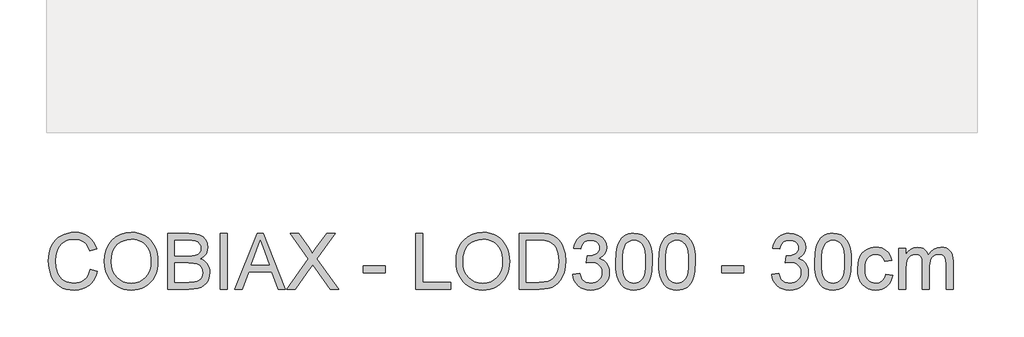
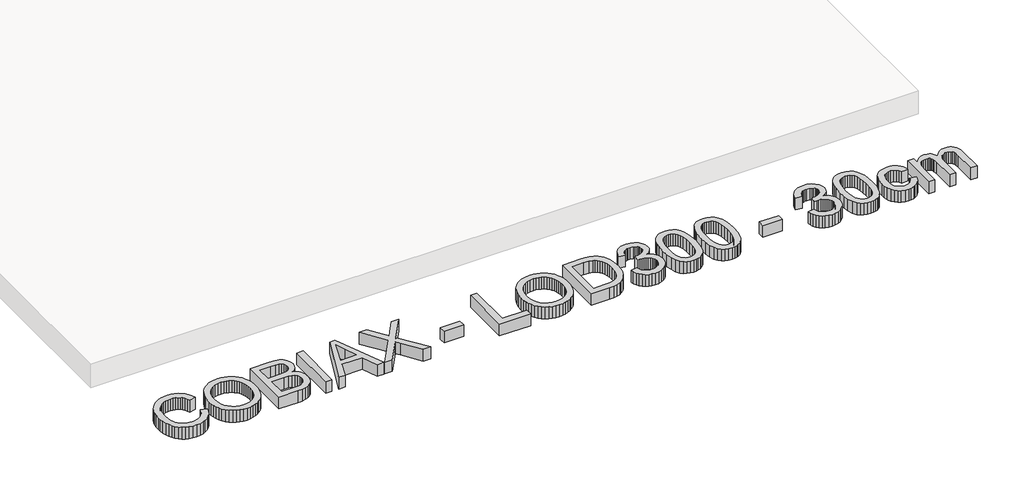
# One storey, part 15 of 18: 1 proxy.
"""IFC4 building model written with IfcOpenShell, lengths in millimetres."""

from ifc_helpers import new_model, si_unit, origin, origin_with_axes, place, context, project, spatial, polyline, outline, extrude, element, save

model = new_model("IFC4")

# Units and contexts
model_context = context("Model", 3, world=origin())
ifc_project = project(units=[si_unit("LENGTHUNIT", "METRE", prefix="MILLI")], contexts=[model_context])

# Site, building, storey
site = spatial("IfcSite", under=ifc_project)
building = spatial("IfcBuilding", under=site)
storey = spatial("IfcBuildingStorey", under=building, Name="COBIAX Slabs", Elevation=0.0)

# Proxy
placement = place(None, origin())
element("IfcBuildingElementProxy", 1, Name="600mm Arial", ObjectType="600mm Arial", at=placement, inside=storey, context=model_context, shape_type="SweptSolid", body=[
    extrude(outline(polyline([(39098.2153953, -6620.9127725), (39173.5576279, -6640.3369419), (39158.64921, -6687.1913125), (39138.7927794, -6728.13198), (39113.9883358, -6763.1589445), (39084.2358795, -6792.2722059), (39050.2067949, -6815.1590645), (39012.5724668, -6831.5068207), (38971.3328952, -6841.3154744), (38926.4880799, -6844.5850256), (38880.5442173, -6842.1110192), (38839.097712, -6834.6889999), (38802.1485641, -6822.3189678), (38769.6967736, -6805.0009229), (38741.2962836, -6782.9923826), (38716.5010371, -6756.5508642), (38695.3110342, -6725.6763677), (38677.7262748, -6690.3688932), (38663.9169044, -6652.155151), (38654.0530684, -6612.5618512), (38648.1347668, -6571.588994), (38646.1619996, -6529.2365793), (38648.3922842, -6483.7939559), (38655.083138, -6441.3495707), (38666.234561, -6401.9034238), (38681.8465531, -6365.4555151), (38701.5696266, -6332.6082514), (38725.0542935, -6303.9640396), (38752.3005538, -6279.5228795), (38783.3084074, -6259.2847713), (38817.0247923, -6243.4152617), (38852.3966461, -6232.0798977), (38889.4239689, -6225.2786793), (38928.1067607, -6223.0116065), (38971.1995379, -6225.9454655), (39010.7146627, -6234.7470422), (39046.6521351, -6249.4163368), (39079.0119551, -6269.9533491), (39107.2606938, -6295.8154534), (39130.8649224, -6326.4600236), (39149.8246407, -6361.8870597), (39164.1398488, -6402.0965618), (39088.7976162, -6420.0492032), (39076.9334219, -6390.420907), (39062.6779946, -6365.1060272), (39046.0313343, -6344.1045638), (39026.993441, -6327.4165168), (39005.4539502, -6314.7015953), (38981.3024972, -6305.6195086), (38954.5390821, -6300.1702565), (38925.1637048, -6298.3538392), (38891.3645465, -6300.3679931), (38860.4532618, -6306.4104549), (38832.4298508, -6316.4812245), (38807.2943135, -6330.5803019), (38785.3639481, -6348.0730908), (38766.9560527, -6368.3249946), (38752.0706275, -6391.3360134), (38740.7076724, -6417.1061472), (38726.3050923, -6472.2516583), (38721.5042322, -6529.0894265), (38727.1880091, -6598.6927), (38734.2927301, -6629.9626696), (38744.2393395, -6658.8781944), (38757.1887858, -6684.8644589), (38773.3020171, -6707.3466473), (38792.5790337, -6726.3247597), (38815.0198354, -6741.7987961), (38839.5345719, -6753.8055448), (38865.0333926, -6762.3817938), (38891.5162978, -6767.5275432), (38918.9832872, -6769.242793), (38951.7385804, -6766.9067423), (38981.8727143, -6759.8985903), (39009.385689, -6748.218337), (39034.2775045, -6731.8659823), (39055.9595496, -6710.9151027), (39073.8432131, -6685.4392745), (39087.928495, -6655.4384978), (39098.2153953, -6620.9127725)])), origin_with_axes(), (0.0, 0.0, 1.0), 150.0),
    extrude(outline(polyline([(39248.8998605, -6541.7445672), (39253.9214497, -6471.0468447), (39268.9862175, -6408.4609203), (39294.0941636, -6353.9867939), (39310.4143286, -6329.7916549), (39329.2452883, -6307.6244654), (39372.3334669, -6270.6063397), (39421.2525753, -6244.1648213), (39476.0026132, -6228.2999102), (39536.5835807, -6223.0116065), (39577.1333737, -6225.49481), (39615.6414215, -6232.9444204), (39652.1077243, -6245.3604378), (39686.532282, -6262.742862), (39717.9494044, -6284.5674614), (39745.3934012, -6310.310004), (39768.8642725, -6339.9704899), (39788.3620182, -6373.548919), (39803.6843033, -6410.2819362), (39814.6287927, -6449.4061864), (39821.1954863, -6490.9216695), (39823.3843842, -6534.8283857), (39821.0805232, -6579.3145159), (39814.1689402, -6621.3910191), (39802.6496352, -6661.0578953), (39786.5226083, -6698.3151443), (39766.1695369, -6732.178682), (39741.9720986, -6761.6644239), (39713.9302936, -6786.7723701), (39682.0441216, -6807.5025205), (39647.5689802, -6823.7261165), (39611.7602665, -6835.3143993), (39574.6179805, -6842.267369), (39536.1421223, -6844.5850256), (39494.8841566, -6842.0236472), (39455.870271, -6834.339512), (39419.1004656, -6821.5326201), (39384.5747403, -6803.6029713), (39353.1944061, -6781.2449431), (39325.8607739, -6755.1529126), (39302.5738436, -6725.3268798), (39283.3336153, -6691.7668448), (39268.2688476, -6655.8201753), (39257.5082992, -6618.8342393), (39251.0519702, -6580.8090365), (39248.8998605, -6541.7445672)]), holes=[polyline([(39324.2420931, -6542.4803312), (39328.0082851, -6592.4295091), (39339.3068608, -6636.7684865), (39358.1378205, -6675.4972636), (39384.5011639, -6708.6158402), (39416.5482842, -6735.140132), (39452.4305743, -6754.0860548), (39492.1480343, -6765.4536084), (39535.700664, -6769.242793), (39579.9982547, -6765.4168202), (39620.1847641, -6753.938902), (39656.2601923, -6734.8090382), (39688.2245392, -6708.027229), (39714.3947446, -6674.2096766), (39733.0877485, -6633.9725834), (39744.3035508, -6587.3159493), (39748.0421516, -6534.2397745), (39746.4418649, -6499.7600345), (39741.6410049, -6467.5427687), (39733.6395715, -6437.5879773), (39722.4375647, -6409.8956601), (39708.1591448, -6384.8291007), (39690.9284718, -6362.7515824), (39670.7455459, -6343.6631054), (39647.6103669, -6327.5636696), (39622.2403048, -6314.7843688), (39595.3527295, -6305.6562968), (39566.9476409, -6300.1794536), (39537.0250391, -6298.3538392), (39494.9853241, -6301.8717107), (39455.9806356, -6312.4253255), (39420.0109735, -6330.0146834), (39387.0763379, -6354.6397844), (39359.5863558, -6387.4870481), (39339.9506543, -6429.7428937), (39328.1692334, -6481.4073214), (39324.2420931, -6542.4803312)])]), origin_with_axes(), (0.0, 0.0, 1.0), 150.0),
    extrude(outline(polyline([(39926.979954, -6835.1672465), (39926.979954, -6232.4293856), (40156.9797774, -6232.4293856), (40220.2370865, -6236.8623637), (40269.6252443, -6250.1612978), (40289.7024042, -6260.2182718), (40307.4803016, -6272.6572818), (40322.9589366, -6287.4783277), (40336.1383091, -6304.6814095), (40354.1829209, -6342.3525258), (40360.1977915, -6381.7894757), (40355.1394141, -6418.0810345), (40339.9642818, -6452.2020895), (40314.56203, -6482.0557135), (40278.8222942, -6505.5449788), (40301.562, -6515.2386694), (40321.5149998, -6527.8386278), (40338.6812934, -6543.3448538), (40353.0608808, -6561.7573477), (40364.423836, -6582.5150893), (40372.5402325, -6605.0570585), (40377.4100704, -6629.3832555), (40379.0333497, -6655.4936801), (40374.6003717, -6697.524198), (40361.3014375, -6736.5012954), (40341.4542039, -6769.6474632), (40317.3763273, -6794.1851923), (40287.8905854, -6811.9538926), (40251.8197558, -6824.7929743), (40207.986616, -6832.5736785), (40155.2139438, -6835.1672465), (39926.979954, -6835.1672465)]), holes=[polyline([(40002.3221866, -6477.2916416), (40139.9100528, -6477.2916416), (40188.0290178, -6475.6729608), (40220.2554806, -6470.8169185), (40248.3800591, -6459.6516999), (40268.5951747, -6442.9314633), (40280.7904629, -6420.9137259), (40284.8555589, -6393.8560051), (40281.0663744, -6367.5892307), (40269.6988207, -6344.7069706), (40251.2679328, -6326.8462997), (40226.2887453, -6315.6442929), (40187.9554414, -6309.7397869), (40129.4622042, -6307.7716182), (40002.3221866, -6307.7716182), (40002.3221866, -6477.2916416)]), polyline([(40002.3221866, -6759.8250139), (40156.8326246, -6759.8250139), (40212.7506879, -6756.8819579), (40238.7047626, -6750.3520525), (40260.0603125, -6740.474421), (40277.4243426, -6726.3293582), (40291.4038584, -6706.9971594), (40300.6193024, -6683.3423471), (40303.6911171, -6656.2294441), (40300.0858735, -6624.7387453), (40289.2701429, -6597.6626304), (40270.3794024, -6576.4910216), (40242.5491295, -6562.7138409), (40203.1305737, -6555.1538659), (40149.4749847, -6552.6338742), (40002.3221866, -6552.6338742), (40002.3221866, -6759.8250139)])]), origin_with_axes(), (0.0, 0.0, 1.0), 150.0),
    extrude(outline(polyline([(40492.0466986, -6835.1672465), (40492.0466986, -6232.4293856), (40567.3889312, -6232.4293856), (40567.3889312, -6835.1672465), (40492.0466986, -6835.1672465)])), origin_with_axes(), (0.0, 0.0, 1.0), 150.0),
    extrude(outline(polyline([(40647.8815118, -6835.1672465), (40888.4763366, -6232.4293856), (40952.6349566, -6232.4293856), (41193.2297814, -6835.1672465), (41113.6201177, -6835.1672465), (41044.6054554, -6646.811665), (40796.358685, -6646.811665), (40727.4911755, -6835.1672465), (40647.8815118, -6835.1672465)]), holes=[polyline([(40824.0234111, -6571.4694324), (41017.0878821, -6571.4694324), (40962.7884996, -6423.2865647), (40920.5556466, -6307.7716182), (40883.0316831, -6410.3371185), (40824.0234111, -6571.4694324)])]), origin_with_axes(), (0.0, 0.0, 1.0), 150.0),
    extrude(outline(polyline([(41207.7979084, -6835.1672465), (41440.1521766, -6506.7222012), (41245.4690247, -6232.4293856), (41335.8208428, -6232.4293856), (41445.4496773, -6386.7926708), (41471.6060872, -6425.8985269), (41482.3850296, -6446.9781652), (41525.6479523, -6385.7626012), (41634.0995644, -6232.4293856), (41725.7757576, -6232.4293856), (41531.0926058, -6507.605118), (41763.4468739, -6835.1672465), (41673.0950559, -6835.1672465), (41518.2903124, -6616.7924942), (41486.0638496, -6571.4694324), (41450.6000252, -6621.2070781), (41299.4741016, -6835.1672465), (41207.7979084, -6835.1672465)])), origin_with_axes(), (0.0, 0.0, 1.0), 150.0),
    extrude(outline(polyline([(42027.1446881, -6656.2294441), (42027.1446881, -6580.8872115), (42262.589165, -6580.8872115), (42262.589165, -6656.2294441), (42027.1446881, -6656.2294441)])), origin_with_axes(), (0.0, 0.0, 1.0), 150.0),
    extrude(outline(polyline([(42592.2114327, -6835.1672465), (42592.2114327, -6232.4293856), (42667.5536653, -6232.4293856), (42667.5536653, -6759.8250139), (42968.9225957, -6759.8250139), (42968.9225957, -6835.1672465), (42592.2114327, -6835.1672465)])), origin_with_axes(), (0.0, 0.0, 1.0), 150.0),
    extrude(outline(polyline([(43025.4292702, -6541.7445672), (43030.4508594, -6471.0468447), (43045.5156271, -6408.4609203), (43070.6235733, -6353.9867939), (43086.9437383, -6329.7916549), (43105.7746979, -6307.6244654), (43148.8628766, -6270.6063397), (43197.7819849, -6244.1648213), (43252.5320229, -6228.2999102), (43313.1129904, -6223.0116065), (43353.6627833, -6225.49481), (43392.1708312, -6232.9444204), (43428.637134, -6245.3604378), (43463.0616917, -6262.742862), (43494.4788141, -6284.5674614), (43521.9228109, -6310.310004), (43545.3936822, -6339.9704899), (43564.8914279, -6373.548919), (43580.213713, -6410.2819362), (43591.1582024, -6449.4061864), (43597.724896, -6490.9216695), (43599.9137939, -6534.8283857), (43597.6099329, -6579.3145159), (43590.6983499, -6621.3910191), (43579.1790449, -6661.0578953), (43563.052018, -6698.3151443), (43542.6989466, -6732.178682), (43518.5015083, -6761.6644239), (43490.4597033, -6786.7723701), (43458.5735313, -6807.5025205), (43424.0983898, -6823.7261165), (43388.2896761, -6835.3143993), (43351.1473902, -6842.267369), (43312.671532, -6844.5850256), (43271.4135663, -6842.0236472), (43232.3996807, -6834.339512), (43195.6298753, -6821.5326201), (43161.10415, -6803.6029713), (43129.7238158, -6781.2449431), (43102.3901836, -6755.1529126), (43079.1032533, -6725.3268798), (43059.8630249, -6691.7668448), (43044.7982572, -6655.8201753), (43034.0377089, -6618.8342393), (43027.5813799, -6580.8090365), (43025.4292702, -6541.7445672)]), holes=[polyline([(43100.7715028, -6542.4803312), (43104.5376947, -6592.4295091), (43115.8362705, -6636.7684865), (43134.6672301, -6675.4972636), (43161.0305736, -6708.6158402), (43193.0776939, -6735.140132), (43228.959984, -6754.0860548), (43268.6774439, -6765.4536084), (43312.2300736, -6769.242793), (43356.5276644, -6765.4168202), (43396.7141738, -6753.938902), (43432.789602, -6734.8090382), (43464.7539488, -6708.027229), (43490.9241543, -6674.2096766), (43509.6171582, -6633.9725834), (43520.8329605, -6587.3159493), (43524.5715613, -6534.2397745), (43522.9712746, -6499.7600345), (43518.1704145, -6467.5427687), (43510.1689811, -6437.5879773), (43498.9669744, -6409.8956601), (43484.6885545, -6384.8291007), (43467.4578815, -6362.7515824), (43447.2749555, -6343.6631054), (43424.1397766, -6327.5636696), (43398.7697145, -6314.7843688), (43371.8821392, -6305.6562968), (43343.4770506, -6300.1794536), (43313.5544488, -6298.3538392), (43271.5147338, -6301.8717107), (43232.5100453, -6312.4253255), (43196.5403832, -6330.0146834), (43163.6057476, -6354.6397844), (43136.1157655, -6387.4870481), (43116.480064, -6429.7428937), (43104.6986431, -6481.4073214), (43100.7715028, -6542.4803312)])]), origin_with_axes(), (0.0, 0.0, 1.0), 150.0),
    extrude(outline(polyline([(43703.5093637, -6835.1672465), (43703.5093637, -6232.4293856), (43911.4362674, -6232.4293856), (43973.5715364, -6234.5998894), (44019.0049628, -6241.1114007), (44067.0503513, -6257.8500315), (44107.5909472, -6284.2271705), (44129.9305814, -6305.7850555), (44149.2719773, -6330.1388435), (44165.6151349, -6357.2885348), (44178.9600543, -6387.2341292), (44189.3251295, -6419.6997153), (44196.7287546, -6454.4093815), (44202.6516548, -6530.5609545), (44198.641741, -6595.2530034), (44186.6119998, -6652.1827421), (44168.2914764, -6700.651195), (44145.4092163, -6739.9593862), (44119.0688655, -6770.9902325), (44090.3740698, -6794.6266507), (44057.4302372, -6812.1562277), (44018.3427752, -6824.8665507), (43973.0381075, -6832.5920726), (43921.4426577, -6835.1672465), (43703.5093637, -6835.1672465)]), holes=[polyline([(43778.8515963, -6759.8250139), (43912.1720314, -6759.8250139), (43967.3175425, -6757.1026871), (44009.1457253, -6748.9357069), (44040.7100005, -6735.8023196), (44065.0637886, -6718.1807721), (44091.2385925, -6685.5680332), (44110.9018852, -6643.3535742), (44123.2075379, -6591.3534542), (44127.3094222, -6529.3837321), (44125.2998668, -6485.6425629), (44119.2712006, -6447.2724708), (44109.2234236, -6414.2734558), (44095.1565358, -6386.645518), (44078.2109714, -6363.7632579), (44059.5271645, -6345.0012761), (44039.1051153, -6330.3595727), (44016.9448236, -6319.8381477), (43973.6083246, -6310.7882506), (43910.1118922, -6307.7716182), (43778.8515963, -6307.7716182), (43778.8515963, -6759.8250139)])]), origin_with_axes(), (0.0, 0.0, 1.0), 150.0),
    extrude(outline(polyline([(44277.9938874, -6675.0650022), (44353.33612, -6665.6472231), (44370.2035095, -6712.9936359), (44381.5756616, -6730.900292), (44394.9067854, -6744.9625813), (44410.5003835, -6755.5851739), (44428.6599585, -6763.1727401), (44449.3855104, -6767.7252798), (44472.6770392, -6769.242793), (44499.9738833, -6767.1550627), (44524.3276713, -6760.8918717), (44545.7384035, -6750.4532201), (44564.2060796, -6735.8391078), (44579.0777093, -6718.1439839), (44589.7003019, -6698.4622971), (44596.0738575, -6676.7940476), (44598.198376, -6653.1392353), (44596.0922516, -6630.6110616), (44589.7738783, -6610.115436), (44579.2432562, -6591.6523583), (44564.5003852, -6575.2218287), (44546.5109557, -6561.7343551), (44526.2406577, -6552.1004453), (44503.6894914, -6546.3200995), (44478.8574567, -6544.3933175), (44455.0554917, -6546.4534567), (44426.0296022, -6552.6338742), (44434.4173117, -6477.2916416), (44446.4838412, -6478.1745584), (44491.622962, -6472.7666931), (44531.9796168, -6456.5430971), (44548.5894889, -6444.2742325), (44560.4536833, -6429.0991002), (44567.5721999, -6411.0177002), (44569.9450388, -6390.0300324), (44568.2251904, -6372.9924975), (44563.0656454, -6357.4908699), (44554.4664038, -6343.5251496), (44542.4274655, -6331.0953367), (44527.6753975, -6320.8912099), (44510.9367667, -6313.6025479), (44471.4998168, -6307.7716182), (44450.8432428, -6309.2431462), (44431.9892906, -6313.6577302), (44414.9379601, -6321.0153701), (44399.6892514, -6331.3160659), (44386.6202435, -6344.5598178), (44376.1080155, -6360.7466255), (44368.1525673, -6379.8764893), (44362.7538991, -6401.949409), (44287.4116665, -6392.5316299), (44296.3420019, -6356.5619678), (44309.5949508, -6324.878131), (44327.1705131, -6297.4801194), (44349.0686888, -6274.3679331), (44374.5996993, -6256.0198186), (44403.0737657, -6242.9140225), (44434.4908881, -6235.0505448), (44468.8510665, -6232.4293856), (44516.2158734, -6237.5981277), (44559.7179193, -6253.1043538), (44596.3957542, -6277.5685064), (44623.2879281, -6309.6110282), (44639.7874355, -6346.5279864), (44645.2872714, -6385.6154484), (44640.063347, -6422.0357659), (44624.391574, -6455.0715691), (44598.4926816, -6483.2145417), (44562.5873988, -6504.9563677), (44587.695345, -6512.8106482), (44609.7498706, -6524.012655), (44628.7509757, -6538.5623879), (44644.6986602, -6556.459847), (44657.3170126, -6577.2635738), (44666.3301215, -6600.53211), (44671.7379868, -6626.2654556), (44673.5406086, -6654.4636105), (44669.935365, -6692.6865498), (44659.1196344, -6727.8928567), (44641.0934166, -6760.0825313), (44615.8567117, -6789.2555735), (44585.110974, -6813.4622088), (44550.5576576, -6830.7526626), (44512.1967626, -6841.1269348), (44470.0282889, -6844.5850256), (44431.9157142, -6841.6327726), (44397.1876538, -6832.7760136), (44365.8441078, -6818.0147485), (44337.8850762, -6797.3489774), (44314.4417961, -6771.9927109), (44296.6455045, -6743.1599595), (44284.4962016, -6710.8507233), (44277.9938874, -6675.0650022)])), origin_with_axes(), (0.0, 0.0, 1.0), 150.0),
    extrude(outline(polyline([(44739.4650621, -6538.6543584), (44745.0016862, -6442.1773052), (44751.9224662, -6401.2642288), (44761.6115582, -6365.2347859), (44774.0275756, -6333.7946709), (44789.1291315, -6306.6495782), (44806.9162259, -6283.7995077), (44827.388859, -6265.2444596), (44850.6160084, -6250.8878647), (44876.6666522, -6240.6331541), (44905.5407903, -6234.4803277), (44937.2384227, -6232.4293856), (44983.6651305, -6237.285428), (45025.235796, -6251.853555), (45060.0006445, -6275.5635496), (45086.0099016, -6307.8451946), (45105.6548001, -6348.4225787), (45121.3265731, -6397.0197903), (45131.5904808, -6458.731995), (45135.0117833, -6538.6543584), (45129.5303416, -6634.5795887), (45122.6785395, -6675.3547093), (45113.0860164, -6711.3381669), (45100.7665681, -6742.7920775), (45085.7339901, -6769.978557), (45067.9882823, -6792.8976053), (45047.5294449, -6811.5492224), (45024.2747043, -6826.0023863), (44998.141287, -6836.3260748), (44969.1291932, -6842.5202879), (44937.2384227, -6844.5850256), (44895.7413337, -6840.9981761), (44858.9531342, -6830.2376278), (44826.8738242, -6812.3033805), (44799.5034037, -6787.1954344), (44773.2366293, -6741.8079932), (44754.4746475, -6685.2553335), (44743.2174585, -6617.5374552), (44739.4650621, -6538.6543584)]), holes=[polyline([(44814.8072947, -6538.5072056), (44817.0145867, -6604.0039963), (44823.6364626, -6657.0203904), (44834.6729225, -6697.5563877), (44850.1239663, -6725.6119884), (44868.8123716, -6744.7004654), (44889.5609162, -6758.3350918), (44912.3695999, -6766.5158677), (44937.2384227, -6769.242793), (44962.1072456, -6766.5066706), (44984.9159293, -6758.2983036), (45005.6644738, -6744.6176919), (45024.3528792, -6725.4648356), (45039.803923, -6697.3632497), (45050.8403828, -6656.8364494), (45057.4622588, -6603.8844347), (45059.6695507, -6538.5072056), (45057.5358352, -6474.7440588), (45051.1346884, -6422.6611653), (45040.4661106, -6382.2585252), (45025.5301016, -6353.5361384), (45007.1543959, -6333.5141609), (44986.1667281, -6319.2127483), (44962.5670981, -6310.6319008), (44936.3555059, -6307.7716182), (44911.6154418, -6310.2916099), (44889.1930342, -6317.8515849), (44869.0882831, -6330.4515432), (44851.3011887, -6348.0914849), (44835.3351101, -6379.3614545), (44823.9307682, -6421.5207311), (44817.0881631, -6474.5693149), (44814.8072947, -6538.5072056)])]), origin_with_axes(), (0.0, 0.0, 1.0), 150.0),
    extrude(outline(polyline([(45200.9362369, -6538.6543584), (45206.4728609, -6442.1773052), (45213.3936409, -6401.2642288), (45223.082733, -6365.2347859), (45235.4987503, -6333.7946709), (45250.6003062, -6306.6495782), (45268.3874007, -6283.7995077), (45288.8600337, -6265.2444596), (45312.0871832, -6250.8878647), (45338.137827, -6240.6331541), (45367.0119651, -6234.4803277), (45398.7095975, -6232.4293856), (45445.1363053, -6237.285428), (45486.7069707, -6251.853555), (45521.4718193, -6275.5635496), (45547.4810763, -6307.8451946), (45567.1259749, -6348.4225787), (45582.7977479, -6397.0197903), (45593.0616555, -6458.731995), (45596.4829581, -6538.6543584), (45591.0015164, -6634.5795887), (45584.1497142, -6675.3547093), (45574.5571912, -6711.3381669), (45562.2377429, -6742.7920775), (45547.2051648, -6769.978557), (45529.4594571, -6792.8976053), (45509.0006196, -6811.5492224), (45485.745879, -6826.0023863), (45459.6124618, -6836.3260748), (45430.6003679, -6842.5202879), (45398.7095975, -6844.5850256), (45357.2125084, -6840.9981761), (45320.4243089, -6830.2376278), (45288.3449989, -6812.3033805), (45260.9745785, -6787.1954344), (45234.707804, -6741.8079932), (45215.9458223, -6685.2553335), (45204.6886332, -6617.5374552), (45200.9362369, -6538.6543584)]), holes=[polyline([(45276.2784695, -6538.5072056), (45278.4857615, -6604.0039963), (45285.1076374, -6657.0203904), (45296.1440972, -6697.5563877), (45311.595141, -6725.6119884), (45330.2835464, -6744.7004654), (45351.0320909, -6758.3350918), (45373.8407746, -6766.5158677), (45398.7095975, -6769.242793), (45423.5784204, -6766.5066706), (45446.3871041, -6758.2983036), (45467.1356486, -6744.6176919), (45485.8240539, -6725.4648356), (45501.2750977, -6697.3632497), (45512.3115576, -6656.8364494), (45518.9334335, -6603.8844347), (45521.1407255, -6538.5072056), (45519.0070099, -6474.7440588), (45512.6058632, -6422.6611653), (45501.9372853, -6382.2585252), (45487.0012763, -6353.5361384), (45468.6255707, -6333.5141609), (45447.6379028, -6319.2127483), (45424.0382729, -6310.6319008), (45397.8266807, -6307.7716182), (45373.0866165, -6310.2916099), (45350.6642089, -6317.8515849), (45330.5594579, -6330.4515432), (45312.7723634, -6348.0914849), (45296.8062848, -6379.3614545), (45285.401943, -6421.5207311), (45278.5593379, -6474.5693149), (45276.2784695, -6538.5072056)])]), origin_with_axes(), (0.0, 0.0, 1.0), 150.0),
    extrude(outline(polyline([(45879.0163304, -6656.2294441), (45879.0163304, -6580.8872115), (46114.4608073, -6580.8872115), (46114.4608073, -6656.2294441), (45879.0163304, -6656.2294441)])), origin_with_axes(), (0.0, 0.0, 1.0), 150.0),
    extrude(outline(polyline([(46415.8297378, -6675.0650022), (46491.1719704, -6665.6472231), (46508.0393598, -6712.9936359), (46519.411512, -6730.900292), (46532.7426358, -6744.9625813), (46548.3362339, -6755.5851739), (46566.4958089, -6763.1727401), (46587.2213608, -6767.7252798), (46610.5128896, -6769.242793), (46637.8097336, -6767.1550627), (46662.1635217, -6760.8918717), (46683.5742538, -6750.4532201), (46702.04193, -6735.8391078), (46716.9135597, -6718.1439839), (46727.5361523, -6698.4622971), (46733.9097078, -6676.7940476), (46736.0342264, -6653.1392353), (46733.9281019, -6630.6110616), (46727.6097287, -6610.115436), (46717.0791066, -6591.6523583), (46702.3362356, -6575.2218287), (46684.346806, -6561.7343551), (46664.0765081, -6552.1004453), (46641.5253418, -6546.3200995), (46616.6933071, -6544.3933175), (46592.891342, -6546.4534567), (46563.8654526, -6552.6338742), (46572.2531621, -6477.2916416), (46584.3196915, -6478.1745584), (46629.4588123, -6472.7666931), (46669.8154672, -6456.5430971), (46686.4253393, -6444.2742325), (46698.2895336, -6429.0991002), (46705.4080503, -6411.0177002), (46707.7808891, -6390.0300324), (46706.0610408, -6372.9924975), (46700.9014958, -6357.4908699), (46692.3022542, -6343.5251496), (46680.2633159, -6331.0953367), (46665.5112479, -6320.8912099), (46648.7726171, -6313.6025479), (46609.3356672, -6307.7716182), (46588.6790932, -6309.2431462), (46569.8251409, -6313.6577302), (46552.7738105, -6321.0153701), (46537.5251018, -6331.3160659), (46524.4560939, -6344.5598178), (46513.9438659, -6360.7466255), (46505.9884177, -6379.8764893), (46500.5897494, -6401.949409), (46425.2475168, -6392.5316299), (46434.1778523, -6356.5619678), (46447.4308011, -6324.878131), (46465.0063635, -6297.4801194), (46486.9045392, -6274.3679331), (46512.4355497, -6256.0198186), (46540.9096161, -6242.9140225), (46572.3267385, -6235.0505448), (46606.6869168, -6232.4293856), (46654.0517237, -6237.5981277), (46697.5537697, -6253.1043538), (46734.2316046, -6277.5685064), (46761.1237784, -6309.6110282), (46777.6232859, -6346.5279864), (46783.1231217, -6385.6154484), (46777.8991974, -6422.0357659), (46762.2274244, -6455.0715691), (46736.3285319, -6483.2145417), (46700.4232492, -6504.9563677), (46725.5311954, -6512.8106482), (46747.585721, -6524.012655), (46766.5868261, -6538.5623879), (46782.5345105, -6556.459847), (46795.152863, -6577.2635738), (46804.1659719, -6600.53211), (46809.5738372, -6626.2654556), (46811.376459, -6654.4636105), (46807.7712154, -6692.6865498), (46796.9554848, -6727.8928567), (46778.929267, -6760.0825313), (46753.6925621, -6789.2555735), (46722.9468244, -6813.4622088), (46688.393508, -6830.7526626), (46650.0326129, -6841.1269348), (46607.8641392, -6844.5850256), (46569.7515645, -6841.6327726), (46535.0235042, -6832.7760136), (46503.6799582, -6818.0147485), (46475.7209266, -6797.3489774), (46452.2776464, -6771.9927109), (46434.4813549, -6743.1599595), (46422.332052, -6710.8507233), (46415.8297378, -6675.0650022)])), origin_with_axes(), (0.0, 0.0, 1.0), 150.0),
    extrude(outline(polyline([(46877.3009125, -6538.6543584), (46882.8375365, -6442.1773052), (46889.7583166, -6401.2642288), (46899.4474086, -6365.2347859), (46911.8634259, -6333.7946709), (46926.9649818, -6306.6495782), (46944.7520763, -6283.7995077), (46965.2247093, -6265.2444596), (46988.4518588, -6250.8878647), (47014.5025026, -6240.6331541), (47043.3766407, -6234.4803277), (47075.0742731, -6232.4293856), (47121.5009809, -6237.285428), (47163.0716464, -6251.853555), (47197.8364949, -6275.5635496), (47223.845752, -6307.8451946), (47243.4906505, -6348.4225787), (47259.1624235, -6397.0197903), (47269.4263312, -6458.731995), (47272.8476337, -6538.6543584), (47267.366192, -6634.5795887), (47260.5143898, -6675.3547093), (47250.9218668, -6711.3381669), (47238.6024185, -6742.7920775), (47223.5698405, -6769.978557), (47205.8241327, -6792.8976053), (47185.3652953, -6811.5492224), (47162.1105546, -6826.0023863), (47135.9771374, -6836.3260748), (47106.9650436, -6842.5202879), (47075.0742731, -6844.5850256), (47033.5771841, -6840.9981761), (46996.7889845, -6830.2376278), (46964.7096746, -6812.3033805), (46937.3392541, -6787.1954344), (46911.0724797, -6741.8079932), (46892.3104979, -6685.2553335), (46881.0533089, -6617.5374552), (46877.3009125, -6538.6543584)]), holes=[polyline([(46952.6431451, -6538.5072056), (46954.8504371, -6604.0039963), (46961.472313, -6657.0203904), (46972.5087729, -6697.5563877), (46987.9598166, -6725.6119884), (47006.648222, -6744.7004654), (47027.3967665, -6758.3350918), (47050.2054502, -6766.5158677), (47075.0742731, -6769.242793), (47099.943096, -6766.5066706), (47122.7517797, -6758.2983036), (47143.5003242, -6744.6176919), (47162.1887296, -6725.4648356), (47177.6397734, -6697.3632497), (47188.6762332, -6656.8364494), (47195.2981091, -6603.8844347), (47197.5054011, -6538.5072056), (47195.3716855, -6474.7440588), (47188.9705388, -6422.6611653), (47178.301961, -6382.2585252), (47163.3659519, -6353.5361384), (47144.9902463, -6333.5141609), (47124.0025785, -6319.2127483), (47100.4029485, -6310.6319008), (47074.1913563, -6307.7716182), (47049.4512921, -6310.2916099), (47027.0288845, -6317.8515849), (47006.9241335, -6330.4515432), (46989.137039, -6348.0914849), (46973.1709604, -6379.3614545), (46961.7666186, -6421.5207311), (46954.9240135, -6474.5693149), (46952.6431451, -6538.5072056)])]), origin_with_axes(), (0.0, 0.0, 1.0), 150.0),
    extrude(outline(polyline([(47640.1410177, -6675.0650022), (47715.4832503, -6684.4827813), (47707.2886789, -6720.0339776), (47694.4771884, -6751.4924867), (47677.0487789, -6778.8583086), (47655.0034503, -6802.1314434), (47629.2701047, -6820.7048856), (47600.7776442, -6833.97163), (47569.5260687, -6841.9316767), (47535.5153783, -6844.5850256), (47493.2595326, -6840.883213), (47455.3722856, -6829.7777753), (47421.8536373, -6811.2687124), (47392.7035877, -6785.3560244), (47369.1085563, -6752.5271548), (47352.2549624, -6713.2695474), (47342.142806, -6667.5832021), (47338.7720873, -6615.468119), (47344.5294405, -6548.4216254), (47351.726132, -6518.2507033), (47361.8015001, -6490.3146642), (47374.8245228, -6465.1745284), (47390.8641778, -6443.3913158), (47409.9204651, -6424.9650263), (47431.9933848, -6409.8956601), (47456.085057, -6398.1786186), (47481.1976017, -6389.8093032), (47507.3310189, -6384.7877139), (47534.4853087, -6383.1138508), (47567.9119865, -6385.4131133), (47598.1472879, -6392.3109007), (47625.1912131, -6403.8072131), (47649.043762, -6419.9020504), (47669.3002643, -6440.2275306), (47685.55605, -6464.4157718), (47697.811119, -6492.4667739), (47706.0654712, -6524.380537), (47630.7232386, -6533.7983161), (47617.0564225, -6500.9280598), (47595.7744491, -6477.365218), (47568.0545407, -6463.1833671), (47535.0739199, -6458.4560835), (47509.4739315, -6460.7829371), (47486.3847378, -6467.7634979), (47465.8063387, -6479.397766), (47447.7387342, -6495.6857414), (47433.0280529, -6517.004503), (47422.5204235, -6543.7311299), (47416.2158458, -6575.8656222), (47414.1143199, -6613.4079798), (47416.1698605, -6651.515956), (47422.3364825, -6684.0229288), (47432.6141857, -6710.9288982), (47447.0029702, -6732.2338643), (47464.7118898, -6748.4252706), (47484.949998, -6759.9905608), (47507.717295, -6766.9297349), (47533.0137807, -6769.242793), (47572.0276663, -6763.4670457), (47588.8996543, -6756.2473615), (47604.0150058, -6746.1398037), (47616.9506564, -6733.0340076), (47627.283542, -6716.8196087), (47635.0136624, -6697.4966069), (47640.1410177, -6675.0650022)])), origin_with_axes(), (0.0, 0.0, 1.0), 150.0),
    extrude(outline(polyline([(47781.4077038, -6835.1672465), (47781.4077038, -6392.5316299), (47856.7499365, -6392.5316299), (47856.7499365, -6465.372265), (47879.4114674, -6431.9133975), (47908.5477214, -6405.7018054), (47943.1654171, -6388.7608395), (47982.2712732, -6383.1138508), (48024.1730325, -6388.8712041), (48042.0061122, -6396.0678956), (48057.7606586, -6406.1432637), (48082.8502107, -6433.7895957), (48099.2577477, -6470.6697657), (48126.7201386, -6432.364053), (48158.0452905, -6405.0028296), (48193.2332033, -6388.5860955), (48232.2838771, -6383.1138508), (48262.4456022, -6385.3901207), (48288.9193103, -6392.2189302), (48311.7050014, -6403.6002795), (48330.8026754, -6419.5341684), (48345.8996328, -6440.204538), (48356.6831738, -6465.7953293), (48363.1532984, -6496.3065422), (48365.3100066, -6531.7381769), (48365.3100066, -6835.1672465), (48289.967774, -6835.1672465), (48289.967774, -6564.1117925), (48288.2203345, -6526.5326467), (48282.9780161, -6501.2039713), (48273.1555668, -6483.8583352), (48257.6677348, -6470.2283073), (48237.7469248, -6461.3991394), (48214.6255414, -6458.4560835), (48193.2745901, -6460.3414787), (48173.809034, -6465.9976644), (48156.2288732, -6475.4246405), (48140.5341075, -6488.6224071), (48127.626048, -6505.9772402), (48118.4060055, -6527.875416), (48112.87398, -6554.3169344), (48111.0299715, -6585.3017954), (48111.0299715, -6835.1672465), (48035.6877389, -6835.1672465), (48035.6877389, -6555.724083), (48031.3283373, -6513.1233479), (48025.8790852, -6496.4031113), (48018.2501323, -6482.7362951), (48008.137976, -6472.1137025), (47995.2391135, -6464.5261364), (47979.553545, -6459.9735967), (47961.0812703, -6458.4560835), (47932.0553809, -6462.5027854), (47905.3103598, -6474.6428912), (47883.2374401, -6494.5820954), (47868.2278547, -6522.0260922), (47859.619416, -6560.1018787), (47856.7499365, -6611.9364518), (47856.7499365, -6835.1672465), (47781.4077038, -6835.1672465)])), origin_with_axes(), (0.0, 0.0, 1.0), 150.0),
])

save(model, "model.ifc")
